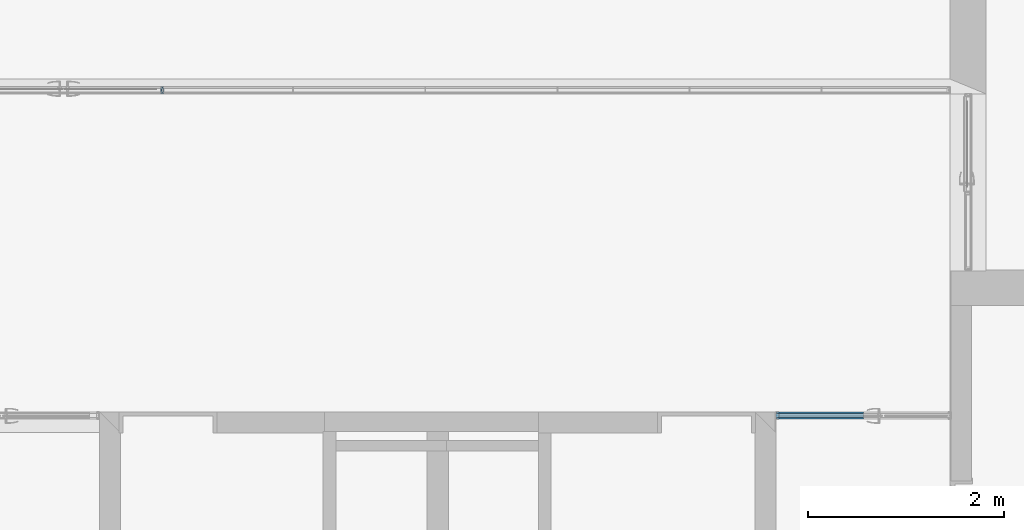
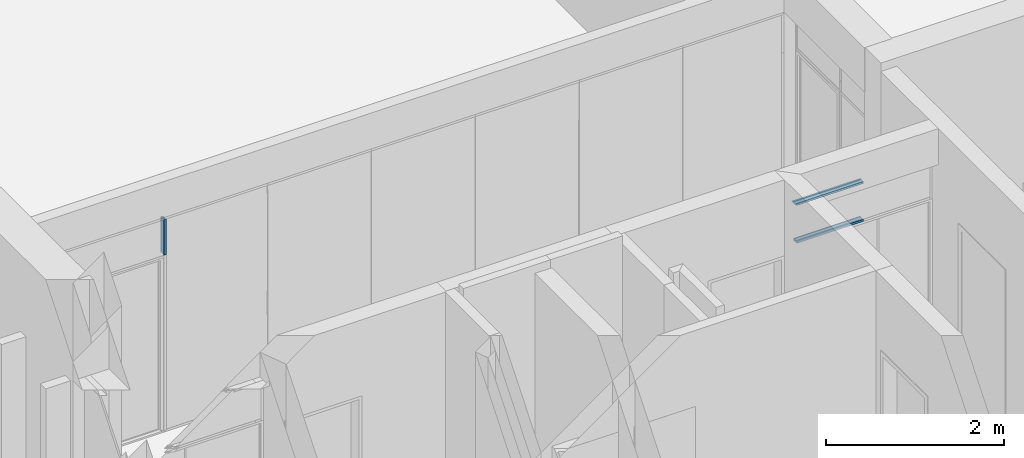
# One storey, part 69 of 89: 5 building element parts, 5 elements without a shape of their own.
"""IFC2X3 building model written with IfcOpenShell, lengths in millimetres."""

from ifc_helpers import new_model, entity, si_unit, converted_unit, derived_unit, money_unit, direction, frame, origin_with_axes, place, context, subcontext, project, spatial, faceted_brep, material, type_object, element, aggregate, save


model = new_model("IFC2X3")

# Units and contexts
model_context = context("Model", 3, precision=0.01, world=origin_with_axes(), true_north=direction((0.0, 1.0)))
body_context = subcontext(model_context, "Body", "Model", "MODEL_VIEW")
ifc_project = project(units=[si_unit("LENGTHUNIT", "METRE", prefix="MILLI"), si_unit("AREAUNIT", "SQUARE_METRE"), si_unit("VOLUMEUNIT", "CUBIC_METRE"), converted_unit("PLANEANGLEUNIT", "DEGREE", entity("IfcPlaneAngleMeasure", 0.0174532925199), si_unit("PLANEANGLEUNIT", "RADIAN"), dimensions=[0, 0, 0, 0, 0, 0, 0]), si_unit("SOLIDANGLEUNIT", "STERADIAN"), money_unit("EUR"), converted_unit("TIMEUNIT", "Year", entity("IfcTimeMeasure", 31556926.0), si_unit("TIMEUNIT", "SECOND"), dimensions=[0, 0, 1, 0, 0, 0, 0]), si_unit("MASSUNIT", "GRAM", prefix="KILO"), si_unit("THERMODYNAMICTEMPERATUREUNIT", "DEGREE_CELSIUS"), si_unit("LUMINOUSINTENSITYUNIT", "LUMEN"), si_unit("ENERGYUNIT", "JOULE", prefix="MEGA"), derived_unit("THERMALCONDUCTANCEUNIT", [(si_unit("POWERUNIT", "WATT"), 1), (si_unit("LENGTHUNIT", "METRE"), -1), (si_unit("THERMODYNAMICTEMPERATUREUNIT", "KELVIN"), -1)]), derived_unit("SPECIFICHEATCAPACITYUNIT", [(si_unit("ENERGYUNIT", "JOULE"), 1), (si_unit("MASSUNIT", "GRAM", prefix="KILO"), -1), (si_unit("THERMODYNAMICTEMPERATUREUNIT", "KELVIN"), -1)]), derived_unit("MASSDENSITYUNIT", [(si_unit("MASSUNIT", "GRAM", prefix="KILO"), 1), (si_unit("VOLUMEUNIT", "CUBIC_METRE"), -1)])], contexts=[model_context])

# Site, building, storey
site_placement = place(None, origin_with_axes())
site = spatial("IfcSite", under=ifc_project, at=site_placement, Name="Puškini 31, Narva", CompositionType="ELEMENT")
building_placement = place(site_placement, origin_with_axes())
building = spatial("IfcBuilding", under=site, at=building_placement, Name="Narva Riigigümnaasium", CompositionType="ELEMENT")
storey_placement = place(building_placement, frame((0.0, 0.0, -3300.0), z_axis=(0.0, 0.0, 1.0), x_axis=(1.0, 0.0, 0.0)))
storey = spatial("IfcBuildingStorey", under=building, at=storey_placement, Name="1.korrus -3.3", CompositionType="ELEMENT", Elevation=-3300.0)

# Curtain wall, member, building element part
curtain_wall_type = type_object("IfcCurtainWallType", Name="Curtain Wall Type", PredefinedType="NOTDEFINED")
curtain_wall_1_placement = place(storey_placement, frame((40014.000008, 243997.000057, -9.155864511e-06), z_axis=(0.0, 0.0, 1.0), x_axis=(1.0, 0.0, 0.0)))
curtain_wall_1 = element("IfcCurtainWall", 1, at=curtain_wall_1_placement, inside=storey, type_object=curtain_wall_type, Name="G-SKLF-09")
member_type_1 = type_object("IfcMemberType", Name="34 x 37", PredefinedType="MULLION")
member_1_placement = place(curtain_wall_1_placement, frame((-572.99999416, 0.0, 2430.00001138), z_axis=(0.0, 0.0, 1.0), x_axis=(-1.0, 0.0, 0.0)))
member_1 = element("IfcMember", 2, at=member_1_placement, type_object=member_type_1, Name="G-SKLF-09-raam", ObjectType="MULLION")
aggregate(curtain_wall_1, [member_1])
ifc_material_1 = material(Name="Teras RAL7012")
building_element_part_1_placement = place(member_1_placement, origin_with_axes())
building_element_part_1 = element("IfcBuildingElementPart", 3, at=building_element_part_1_placement, material=ifc_material_1, Name="Teras RAL7012", context=body_context, shape_type="Brep", body=[
    faceted_brep([(-14.8000001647, 17.0000000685, 0.0), (-14.8000001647, 17.0000000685, 489.999976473), (-3.08908454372e-07, 17.0000000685, 489.999976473), (-3.08908454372e-07, 17.0000000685, 0.0), (-14.8000001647, -17.0000001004, 0.0), (-14.8000001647, -17.0000001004, 489.999976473), (-3.08908454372e-07, -17.0000001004, 489.999976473), (14.8000003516, -17.0000001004, 489.999976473), (14.8000003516, 17.0000000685, 489.999976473), (-12.8000002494, -15.0000001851, 489.999976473), (-12.8000002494, 15.0000001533, 489.999976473), (4.0000003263, 15.0000001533, 489.999976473), (4.0000003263, -15.0000001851, 489.999976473), (14.8000003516, 17.0000000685, 0.0), (14.8000003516, -17.0000001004, 0.0), (-3.08908454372e-07, -17.0000001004, 0.0), (-12.8000002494, -15.0000001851, 0.0), (4.0000003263, -15.0000001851, 0.0), (4.0000003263, 15.0000001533, 0.0), (-12.8000002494, 15.0000001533, 0.0)], [[[0, 1, 2, 3]], [[4, 5, 1, 0]], [[1, 5, 6, 7, 8, 2], [9, 10, 11, 12]], [[3, 2, 8, 13]], [[0, 3, 13, 14, 15, 4], [16, 17, 18, 19]], [[15, 6, 5, 4]], [[14, 7, 6, 15]], [[13, 8, 7, 14]], [[19, 10, 9, 16]], [[18, 11, 10, 19]], [[17, 12, 11, 18]], [[16, 9, 12, 17]]]),
    faceted_brep([(0.0, -37.0000000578, 0.0), (0.0, -37.0000000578, 489.999976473), (0.0, -17.0, 489.999976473), (0.0, -17.0, 0.0), (17.0000193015, -37.0000000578, 0.0), (17.0000193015, -37.0000000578, 489.999976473), (17.0000193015, -34.0161446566, 489.999976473), (15.5126239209, -34.0161444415, 489.999976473), (11.987414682, -34.0161444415, 489.999976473), (7.50000002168, -34.0161446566, 489.999976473), (7.50000002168, -20.0000000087, 489.999976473), (17.0000193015, -20.0000000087, 489.999976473), (17.0000193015, -17.0, 489.999976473), (14.8000003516, -17.0000001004, 489.999976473), (14.8000003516, -17.0000001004, 0.0), (17.0000193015, -17.0, 0.0), (17.0000193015, -20.0000000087, 0.0), (7.50000002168, -20.0000000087, 0.0), (7.50000002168, -34.0161446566, 0.0), (11.987414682, -34.0161444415, 0.0), (15.5126239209, -34.0161444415, 0.0), (17.0000193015, -34.0161446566, 0.0)], [[[0, 1, 2, 3]], [[4, 5, 1, 0]], [[1, 5, 6, 7, 8, 9, 10, 11, 12, 13, 2]], [[3, 2, 13, 14]], [[0, 3, 14, 15, 16, 17, 18, 19, 20, 21, 4]], [[21, 6, 5, 4]], [[20, 7, 6, 21]], [[19, 8, 7, 20]], [[18, 9, 8, 19]], [[17, 10, 9, 18]], [[16, 11, 10, 17]], [[15, 12, 11, 16]], [[14, 13, 12, 15]]]),
    faceted_brep([(0.0, 16.9999999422, 0.0), (0.0, 16.9999999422, 489.999976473), (0.0, 37.0, 489.999976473), (0.0, 37.0, 0.0), (14.8000003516, 17.0000000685, 0.0), (14.8000003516, 17.0000000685, 489.999976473), (17.0000193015, 16.9999999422, 489.999976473), (17.0000193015, 19.9999999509, 489.999976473), (7.50000002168, 19.9999999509, 489.999976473), (7.50000002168, 34.0161445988, 489.999976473), (11.987414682, 34.0161444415, 489.999976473), (15.5126239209, 34.0161444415, 489.999976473), (17.0000193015, 34.0161445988, 489.999976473), (17.0000193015, 37.0, 489.999976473), (17.0000193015, 37.0, 0.0), (17.0000193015, 34.0161445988, 0.0), (15.5126239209, 34.0161444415, 0.0), (11.987414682, 34.0161444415, 0.0), (7.50000002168, 34.0161445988, 0.0), (7.50000002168, 19.9999999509, 0.0), (17.0000193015, 19.9999999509, 0.0), (17.0000193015, 16.9999999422, 0.0)], [[[0, 1, 2, 3]], [[4, 5, 1, 0]], [[1, 5, 6, 7, 8, 9, 10, 11, 12, 13, 2]], [[3, 2, 13, 14]], [[0, 3, 14, 15, 16, 17, 18, 19, 20, 21, 4]], [[21, 6, 5, 4]], [[20, 7, 6, 21]], [[19, 8, 7, 20]], [[18, 9, 8, 19]], [[17, 10, 9, 18]], [[16, 11, 10, 17]], [[15, 12, 11, 16]], [[14, 13, 12, 15]]]),
    faceted_brep([(0.0, -17.0, 0.0), (0.0, -17.0, 489.999976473), (0.0, -37.0, 489.999976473), (0.0, -37.0, 0.0), (-14.8000001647, -17.0000001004, 0.0), (-14.8000001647, -17.0000001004, 489.999976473), (-17.0000193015, -17.0, 489.999976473), (-17.0000193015, -20.0, 489.999976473), (-7.49999999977, -20.0, 489.999976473), (-7.49999999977, -34.0161444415, 489.999976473), (-11.987414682, -34.0161444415, 489.999976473), (-15.5126239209, -34.0161444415, 489.999976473), (-17.0000193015, -34.0161444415, 489.999976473), (-17.0000193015, -37.0, 489.999976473), (-17.0000193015, -37.0, 0.0), (-17.0000193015, -34.0161444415, 0.0), (-15.5126239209, -34.0161444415, 0.0), (-11.987414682, -34.0161444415, 0.0), (-7.49999999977, -34.0161444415, 0.0), (-7.49999999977, -20.0, 0.0), (-17.0000193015, -20.0, 0.0), (-17.0000193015, -17.0, 0.0)], [[[0, 1, 2, 3]], [[4, 5, 1, 0]], [[1, 5, 6, 7, 8, 9, 10, 11, 12, 13, 2]], [[3, 2, 13, 14]], [[0, 3, 14, 15, 16, 17, 18, 19, 20, 21, 4]], [[21, 6, 5, 4]], [[20, 7, 6, 21]], [[19, 8, 7, 20]], [[18, 9, 8, 19]], [[17, 10, 9, 18]], [[16, 11, 10, 17]], [[15, 12, 11, 16]], [[14, 13, 12, 15]]]),
    faceted_brep([(0.0, 17.0, 0.0), (0.0, 17.0, 489.999976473), (-14.8000001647, 17.0000000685, 489.999976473), (-14.8000001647, 17.0000000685, 0.0), (0.0, 37.0, 0.0), (0.0, 37.0, 489.999976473), (-17.0000193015, 37.0, 489.999976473), (-17.0000193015, 34.0161444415, 489.999976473), (-15.5126239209, 34.0161444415, 489.999976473), (-11.987414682, 34.0161444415, 489.999976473), (-7.49999999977, 34.0161444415, 489.999976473), (-7.49999999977, 20.0, 489.999976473), (-17.0000193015, 20.0, 489.999976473), (-17.0000193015, 17.0, 489.999976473), (-17.0000193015, 17.0, 0.0), (-17.0000193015, 20.0, 0.0), (-7.49999999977, 20.0, 0.0), (-7.49999999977, 34.0161444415, 0.0), (-11.987414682, 34.0161444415, 0.0), (-15.5126239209, 34.0161444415, 0.0), (-17.0000193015, 34.0161444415, 0.0), (-17.0000193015, 37.0, 0.0)], [[[0, 1, 2, 3]], [[4, 5, 1, 0]], [[1, 5, 6, 7, 8, 9, 10, 11, 12, 13, 2]], [[3, 2, 13, 14]], [[0, 3, 14, 15, 16, 17, 18, 19, 20, 21, 4]], [[21, 6, 5, 4]], [[20, 7, 6, 21]], [[19, 8, 7, 20]], [[18, 9, 8, 19]], [[17, 10, 9, 18]], [[16, 11, 10, 17]], [[15, 12, 11, 16]], [[14, 13, 12, 15]]]),
])
aggregate(member_1, [building_element_part_1])

# Curtain wall, members, building element parts
curtain_wall_2_placement = place(storey_placement, frame((46605.0000001, 240678.000001, 0.0), z_axis=(0.0, 0.0, 1.0), x_axis=(1.0, 0.0, 0.0)))
curtain_wall_2 = element("IfcCurtainWall", 4, at=curtain_wall_2_placement, inside=storey, type_object=curtain_wall_type, Name="G-SKLF-57")
member_type_2 = type_object("IfcMemberType", Name="Siseklaasfassaad-Servaprofiil-Doubleline30 30 x 42", PredefinedType="MULLION")
member_2_placement = place(curtain_wall_2_placement, frame((0.0, 0.0, 2400.0), z_axis=(-1.0, 0.0, 0.0), x_axis=(0.0, 0.0, 1.0)))
member_2 = element("IfcMember", 5, at=member_2_placement, type_object=member_type_2, Name="Frame-Siseklaasf-126", ObjectType="MULLION")
ifc_material_2 = material(Name="Klaasvill")
building_element_part_2_placement = place(member_2_placement, origin_with_axes())
building_element_part_2 = element("IfcBuildingElementPart", 6, at=building_element_part_2_placement, material=ifc_material_2, Name="Klaasvill", context=body_context, shape_type="Brep", body=[
    faceted_brep([(7.49999990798, 15.000000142, 0.0), (13.8499999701, 15.000000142, 0.0), (13.8499999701, 15.000000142, 864.999980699), (7.49999990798, 15.000000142, 864.999980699), (7.49999990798, 29.0161444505, 0.0), (13.8499999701, 29.0161444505, 0.0), (13.8499999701, 29.0161444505, 864.999980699), (7.49999990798, 29.0161444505, 864.999980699)], [[[0, 1, 2, 3]], [[0, 4, 5, 1]], [[1, 5, 6, 2]], [[3, 2, 6, 7]], [[4, 0, 3, 7]], [[5, 4, 7, 6]]]),
    faceted_brep([(24.987414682, 29.0161444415, 0.0), (25.004489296, 27.0307503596, 0.0), (25.004489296, 27.0307503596, 864.999980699), (24.987414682, 29.0161444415, 864.999980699), (28.5126239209, 29.0161444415, 0.0), (28.7655837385, 28.0385325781, 0.0), (28.4955493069, 27.0307503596, 0.0), (27.75780152, 26.2930025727, 0.0), (26.7500193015, 26.0229681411, 0.0), (25.742237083, 26.2930025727, 0.0), (25.742237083, 26.2930025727, 864.999980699), (26.7500193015, 26.0229681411, 864.999980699), (27.75780152, 26.2930025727, 864.999980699), (28.4955493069, 27.0307503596, 864.999980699), (28.7655837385, 28.0385325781, 864.999980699), (28.5126239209, 29.0161444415, 864.999980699)], [[[0, 1, 2, 3]], [[0, 4, 5, 6, 7, 8, 9, 1]], [[1, 9, 10, 2]], [[3, 2, 10, 11, 12, 13, 14, 15]], [[4, 0, 3, 15]], [[5, 4, 15, 14]], [[6, 5, 14, 13]], [[7, 6, 13, 12]], [[8, 7, 12, 11]], [[9, 8, 11, 10]]]),
    faceted_brep([(7.49999990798, -24.9999997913, 0.0), (7.49999990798, -39.0161445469, 0.0), (7.49999990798, -39.0161445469, 864.999980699), (7.49999990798, -24.9999997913, 864.999980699), (13.8499999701, -24.9999997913, 0.0), (13.8499999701, -39.0161445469, 0.0), (13.8499999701, -39.0161445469, 864.999980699), (13.8499999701, -24.9999997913, 864.999980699)], [[[0, 1, 2, 3]], [[0, 4, 5, 1]], [[1, 5, 6, 2]], [[3, 2, 6, 7]], [[4, 0, 3, 7]], [[5, 4, 7, 6]]]),
    faceted_brep([(25.004489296, -37.0307503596, 0.0), (24.987414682, -39.0161444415, 0.0), (24.987414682, -39.0161444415, 864.999980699), (25.004489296, -37.0307503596, 864.999980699), (25.742237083, -36.2930025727, 0.0), (26.7500193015, -36.0229681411, 0.0), (27.75780152, -36.2930025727, 0.0), (28.4955493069, -37.0307503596, 0.0), (28.7655837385, -38.0385325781, 0.0), (28.5126239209, -39.0161444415, 0.0), (28.5126239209, -39.0161444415, 864.999980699), (28.7655837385, -38.0385325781, 864.999980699), (28.4955493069, -37.0307503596, 864.999980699), (27.75780152, -36.2930025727, 864.999980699), (26.7500193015, -36.0229681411, 864.999980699), (25.742237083, -36.2930025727, 864.999980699)], [[[0, 1, 2, 3]], [[0, 4, 5, 6, 7, 8, 9, 1]], [[1, 9, 10, 2]], [[3, 2, 10, 11, 12, 13, 14, 15]], [[4, 0, 3, 15]], [[5, 4, 15, 14]], [[6, 5, 14, 13]], [[7, 6, 13, 12]], [[8, 7, 12, 11]], [[9, 8, 11, 10]]]),
])
building_element_part_3_placement = place(member_2_placement, origin_with_axes())
building_element_part_3 = element("IfcBuildingElementPart", 7, at=building_element_part_3_placement, material=ifc_material_1, Name="Teras RAL7012", context=body_context, shape_type="Brep", body=[
    faceted_brep([(0.0, -22.0000000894, 0.0), (29.5999996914, -22.0000000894, 0.0), (29.5999996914, -22.0000000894, 864.999980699), (0.0, -22.0000000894, 864.999980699), (0.0, 12.0000000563, 0.0), (29.5999996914, 12.0000000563, 0.0), (1.9999999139, 10.0000001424, 0.0), (1.9999999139, -20.0000001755, 0.0), (18.7999996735, -20.0000001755, 0.0), (18.7999996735, 10.0000001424, 0.0), (29.5999996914, 12.0000000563, 864.999980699), (0.0, 12.0000000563, 864.999980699), (1.9999999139, 10.0000001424, 864.999980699), (18.7999996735, 10.0000001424, 864.999980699), (18.7999996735, -20.0000001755, 864.999980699), (1.9999999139, -20.0000001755, 864.999980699)], [[[0, 1, 2, 3]], [[0, 4, 5, 1], [6, 7, 8, 9]], [[1, 5, 10, 2]], [[3, 2, 10, 11], [12, 13, 14, 15]], [[4, 0, 3, 11]], [[5, 4, 11, 10]], [[7, 6, 12, 15]], [[8, 7, 15, 14]], [[9, 8, 14, 13]], [[6, 9, 13, 12]]]),
    faceted_brep([(0.0, 12.0, 0.0), (29.5999996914, 12.0000000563, 0.0), (29.5999996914, 12.0000000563, 864.999980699), (0.0, 12.0, 864.999980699), (0.0, 32.0, 0.0), (30.0000193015, 32.0, 0.0), (30.0000193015, 29.0161444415, 0.0), (28.5126239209, 29.0161444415, 0.0), (24.987414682, 29.0161444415, 0.0), (13.8499999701, 29.0161444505, 0.0), (7.49999999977, 29.0161444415, 0.0), (7.49999999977, 15.0, 0.0), (13.8499999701, 15.000000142, 0.0), (30.0000193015, 15.0, 0.0), (30.0000193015, 12.0, 0.0), (30.0000193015, 12.0, 864.999980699), (30.0000193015, 15.0, 864.999980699), (13.8499999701, 15.000000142, 864.999980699), (7.49999999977, 15.0, 864.999980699), (7.49999999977, 29.0161444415, 864.999980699), (13.8499999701, 29.0161444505, 864.999980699), (24.987414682, 29.0161444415, 864.999980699), (28.5126239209, 29.0161444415, 864.999980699), (30.0000193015, 29.0161444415, 864.999980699), (30.0000193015, 32.0, 864.999980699), (0.0, 32.0, 864.999980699)], [[[0, 1, 2, 3]], [[0, 4, 5, 6, 7, 8, 9, 10, 11, 12, 13, 14, 1]], [[1, 14, 15, 2]], [[3, 2, 15, 16, 17, 18, 19, 20, 21, 22, 23, 24, 25]], [[4, 0, 3, 25]], [[5, 4, 25, 24]], [[6, 5, 24, 23]], [[7, 6, 23, 22]], [[8, 7, 22, 21]], [[9, 8, 21, 20]], [[10, 9, 20, 19]], [[11, 10, 19, 18]], [[12, 11, 18, 17]], [[13, 12, 17, 16]], [[14, 13, 16, 15]]]),
    faceted_brep([(0.0, -22.0, 0.0), (0.0, -42.0, 0.0), (0.0, -42.0, 864.999980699), (0.0, -22.0, 864.999980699), (29.5999996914, -22.0000000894, 0.0), (30.0000193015, -22.0, 0.0), (30.0000193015, -25.0, 0.0), (13.8499999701, -24.9999997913, 0.0), (7.49999999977, -25.0, 0.0), (7.49999999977, -39.0161444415, 0.0), (13.8499999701, -39.0161445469, 0.0), (24.987414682, -39.0161444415, 0.0), (28.5126239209, -39.0161444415, 0.0), (30.0000193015, -39.0161444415, 0.0), (30.0000193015, -42.0, 0.0), (30.0000193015, -42.0, 864.999980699), (30.0000193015, -39.0161444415, 864.999980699), (28.5126239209, -39.0161444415, 864.999980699), (24.987414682, -39.0161444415, 864.999980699), (13.8499999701, -39.0161445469, 864.999980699), (7.49999999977, -39.0161444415, 864.999980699), (7.49999999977, -25.0, 864.999980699), (13.8499999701, -24.9999997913, 864.999980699), (30.0000193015, -25.0, 864.999980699), (30.0000193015, -22.0, 864.999980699), (29.5999996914, -22.0000000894, 864.999980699)], [[[0, 1, 2, 3]], [[0, 4, 5, 6, 7, 8, 9, 10, 11, 12, 13, 14, 1]], [[1, 14, 15, 2]], [[3, 2, 15, 16, 17, 18, 19, 20, 21, 22, 23, 24, 25]], [[4, 0, 3, 25]], [[5, 4, 25, 24]], [[6, 5, 24, 23]], [[7, 6, 23, 22]], [[8, 7, 22, 21]], [[9, 8, 21, 20]], [[10, 9, 20, 19]], [[11, 10, 19, 18]], [[12, 11, 18, 17]], [[13, 12, 17, 16]], [[14, 13, 16, 15]]]),
])
aggregate(member_2, [building_element_part_2, building_element_part_3])
member_type_3 = type_object("IfcMemberType", Name="Boundary Frame 30 x 42", PredefinedType="MULLION")
member_3_placement = place(curtain_wall_2_placement, frame((0.0, 0.0, 2950.0), z_axis=(-1.0, 0.0, 0.0), x_axis=(0.0, 0.0, 1.0)))
member_3 = element("IfcMember", 8, at=member_3_placement, type_object=member_type_3, Name="SKLF-87-raam", ObjectType="MULLION")
aggregate(curtain_wall_2, [member_2, member_3])
building_element_part_4_placement = place(member_3_placement, origin_with_axes())
building_element_part_4 = element("IfcBuildingElementPart", 9, at=building_element_part_4_placement, material=ifc_material_2, Name="Klaasvill", context=body_context, shape_type="Brep", body=[
    faceted_brep([(-7.49999990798, 15.000000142, 0.0), (-7.49999990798, 15.000000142, 887.500000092), (-13.8499999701, 15.000000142, 881.15000003), (-13.8499999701, 15.000000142, 0.0), (-7.49999990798, 29.0161444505, 0.0), (-7.49999990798, 29.0161444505, 887.500000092), (-13.8499999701, 29.0161444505, 881.15000003), (-13.8499999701, 29.0161444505, 0.0)], [[[0, 1, 2, 3]], [[4, 5, 1, 0]], [[1, 5, 6, 2]], [[3, 2, 6, 7]], [[0, 3, 7, 4]], [[7, 6, 5, 4]]]),
    faceted_brep([(-24.987414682, 29.0161444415, 0.0), (-24.987414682, 29.0161444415, 870.012585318), (-25.004489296, 27.0307503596, 869.995510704), (-25.004489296, 27.0307503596, 0.0), (-28.5126239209, 29.0161444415, 0.0), (-28.5126239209, 29.0161444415, 866.487376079), (-28.7655837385, 28.0385325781, 866.234416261), (-28.4955493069, 27.0307503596, 866.504450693), (-27.75780152, 26.2930025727, 867.24219848), (-26.7500193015, 26.0229681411, 868.249980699), (-25.742237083, 26.2930025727, 869.257762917), (-25.742237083, 26.2930025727, 0.0), (-26.7500193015, 26.0229681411, 0.0), (-27.75780152, 26.2930025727, 0.0), (-28.4955493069, 27.0307503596, 0.0), (-28.7655837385, 28.0385325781, 0.0)], [[[0, 1, 2, 3]], [[4, 5, 1, 0]], [[1, 5, 6, 7, 8, 9, 10, 2]], [[3, 2, 10, 11]], [[0, 3, 11, 12, 13, 14, 15, 4]], [[15, 6, 5, 4]], [[14, 7, 6, 15]], [[13, 8, 7, 14]], [[12, 9, 8, 13]], [[11, 10, 9, 12]]]),
    faceted_brep([(-7.49999990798, -24.9999997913, 0.0), (-7.49999990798, -24.9999997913, 887.500000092), (-7.49999990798, -39.0161445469, 887.500000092), (-7.49999990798, -39.0161445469, 0.0), (-13.8499999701, -24.9999997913, 0.0), (-13.8499999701, -24.9999997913, 881.15000003), (-13.8499999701, -39.0161445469, 881.15000003), (-13.8499999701, -39.0161445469, 0.0)], [[[0, 1, 2, 3]], [[4, 5, 1, 0]], [[1, 5, 6, 2]], [[3, 2, 6, 7]], [[0, 3, 7, 4]], [[7, 6, 5, 4]]]),
    faceted_brep([(-25.004489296, -37.0307503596, 0.0), (-25.004489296, -37.0307503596, 869.995510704), (-24.987414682, -39.0161444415, 870.012585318), (-24.987414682, -39.0161444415, 0.0), (-25.742237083, -36.2930025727, 0.0), (-25.742237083, -36.2930025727, 869.257762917), (-26.7500193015, -36.0229681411, 868.249980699), (-27.75780152, -36.2930025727, 867.24219848), (-28.4955493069, -37.0307503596, 866.504450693), (-28.7655837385, -38.0385325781, 866.234416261), (-28.5126239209, -39.0161444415, 866.487376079), (-28.5126239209, -39.0161444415, 0.0), (-28.7655837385, -38.0385325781, 0.0), (-28.4955493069, -37.0307503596, 0.0), (-27.75780152, -36.2930025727, 0.0), (-26.7500193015, -36.0229681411, 0.0)], [[[0, 1, 2, 3]], [[4, 5, 1, 0]], [[1, 5, 6, 7, 8, 9, 10, 2]], [[3, 2, 10, 11]], [[0, 3, 11, 12, 13, 14, 15, 4]], [[15, 6, 5, 4]], [[14, 7, 6, 15]], [[13, 8, 7, 14]], [[12, 9, 8, 13]], [[11, 10, 9, 12]]]),
])
building_element_part_5_placement = place(member_3_placement, origin_with_axes())
building_element_part_5 = element("IfcBuildingElementPart", 10, at=building_element_part_5_placement, material=ifc_material_1, Name="Teras RAL7012", context=body_context, shape_type="Brep", body=[
    faceted_brep([(0.0, -22.0000000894, 0.0), (0.0, -22.0000000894, 895.0), (-29.5999996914, -22.0000000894, 865.400000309), (-29.5999996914, -22.0000000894, 0.0), (0.0, 12.0000000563, 0.0), (0.0, 12.0000000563, 895.0), (-29.5999996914, 12.0000000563, 865.400000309), (-1.9999999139, 10.0000001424, 893.000000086), (-1.9999999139, -20.0000001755, 893.000000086), (-18.7999996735, -20.0000001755, 876.200000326), (-18.7999996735, 10.0000001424, 876.200000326), (-29.5999996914, 12.0000000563, 0.0), (-1.9999999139, 10.0000001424, 0.0), (-18.7999996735, 10.0000001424, 0.0), (-18.7999996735, -20.0000001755, 0.0), (-1.9999999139, -20.0000001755, 0.0)], [[[0, 1, 2, 3]], [[4, 5, 1, 0]], [[1, 5, 6, 2], [7, 8, 9, 10]], [[3, 2, 6, 11]], [[0, 3, 11, 4], [12, 13, 14, 15]], [[11, 6, 5, 4]], [[15, 8, 7, 12]], [[14, 9, 8, 15]], [[13, 10, 9, 14]], [[12, 7, 10, 13]]]),
    faceted_brep([(0.0, 12.0, 0.0), (0.0, 12.0, 895.0), (-29.5999996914, 12.0000000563, 865.400000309), (-29.5999996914, 12.0000000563, 0.0), (0.0, 32.0, 0.0), (0.0, 32.0, 895.0), (-30.0000193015, 32.0, 864.999980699), (-30.0000193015, 29.0161444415, 864.999980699), (-28.5126239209, 29.0161444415, 866.487376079), (-24.987414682, 29.0161444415, 870.012585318), (-13.8499999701, 29.0161444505, 881.15000003), (-7.49999999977, 29.0161444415, 887.5), (-7.49999999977, 15.0, 887.5), (-13.8499999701, 15.000000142, 881.15000003), (-30.0000193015, 15.0, 864.999980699), (-30.0000193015, 12.0, 864.999980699), (-30.0000193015, 12.0, 0.0), (-30.0000193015, 15.0, 0.0), (-13.8499999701, 15.000000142, 0.0), (-7.49999999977, 15.0, 0.0), (-7.49999999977, 29.0161444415, 0.0), (-13.8499999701, 29.0161444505, 0.0), (-24.987414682, 29.0161444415, 0.0), (-28.5126239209, 29.0161444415, 0.0), (-30.0000193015, 29.0161444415, 0.0), (-30.0000193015, 32.0, 0.0)], [[[0, 1, 2, 3]], [[4, 5, 1, 0]], [[1, 5, 6, 7, 8, 9, 10, 11, 12, 13, 14, 15, 2]], [[3, 2, 15, 16]], [[0, 3, 16, 17, 18, 19, 20, 21, 22, 23, 24, 25, 4]], [[25, 6, 5, 4]], [[24, 7, 6, 25]], [[23, 8, 7, 24]], [[22, 9, 8, 23]], [[21, 10, 9, 22]], [[20, 11, 10, 21]], [[19, 12, 11, 20]], [[18, 13, 12, 19]], [[17, 14, 13, 18]], [[16, 15, 14, 17]]]),
    faceted_brep([(0.0, -22.0, 0.0), (0.0, -22.0, 895.0), (0.0, -42.0, 895.0), (0.0, -42.0, 0.0), (-29.5999996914, -22.0000000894, 0.0), (-29.5999996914, -22.0000000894, 865.400000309), (-30.0000193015, -22.0, 864.999980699), (-30.0000193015, -25.0, 864.999980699), (-13.8499999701, -24.9999997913, 881.15000003), (-7.49999999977, -25.0, 887.5), (-7.49999999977, -39.0161444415, 887.5), (-13.8499999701, -39.0161445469, 881.15000003), (-24.987414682, -39.0161444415, 870.012585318), (-28.5126239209, -39.0161444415, 866.487376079), (-30.0000193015, -39.0161444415, 864.999980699), (-30.0000193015, -42.0, 864.999980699), (-30.0000193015, -42.0, 0.0), (-30.0000193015, -39.0161444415, 0.0), (-28.5126239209, -39.0161444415, 0.0), (-24.987414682, -39.0161444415, 0.0), (-13.8499999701, -39.0161445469, 0.0), (-7.49999999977, -39.0161444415, 0.0), (-7.49999999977, -25.0, 0.0), (-13.8499999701, -24.9999997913, 0.0), (-30.0000193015, -25.0, 0.0), (-30.0000193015, -22.0, 0.0)], [[[0, 1, 2, 3]], [[4, 5, 1, 0]], [[1, 5, 6, 7, 8, 9, 10, 11, 12, 13, 14, 15, 2]], [[3, 2, 15, 16]], [[0, 3, 16, 17, 18, 19, 20, 21, 22, 23, 24, 25, 4]], [[25, 6, 5, 4]], [[24, 7, 6, 25]], [[23, 8, 7, 24]], [[22, 9, 8, 23]], [[21, 10, 9, 22]], [[20, 11, 10, 21]], [[19, 12, 11, 20]], [[18, 13, 12, 19]], [[17, 14, 13, 18]], [[16, 15, 14, 17]]]),
])
aggregate(member_3, [building_element_part_4, building_element_part_5])

save(model, "model.ifc")
